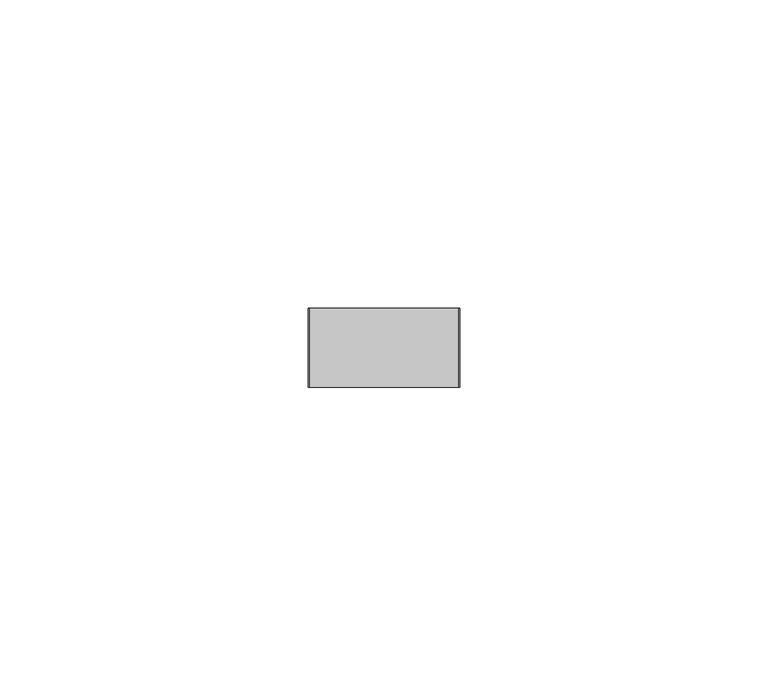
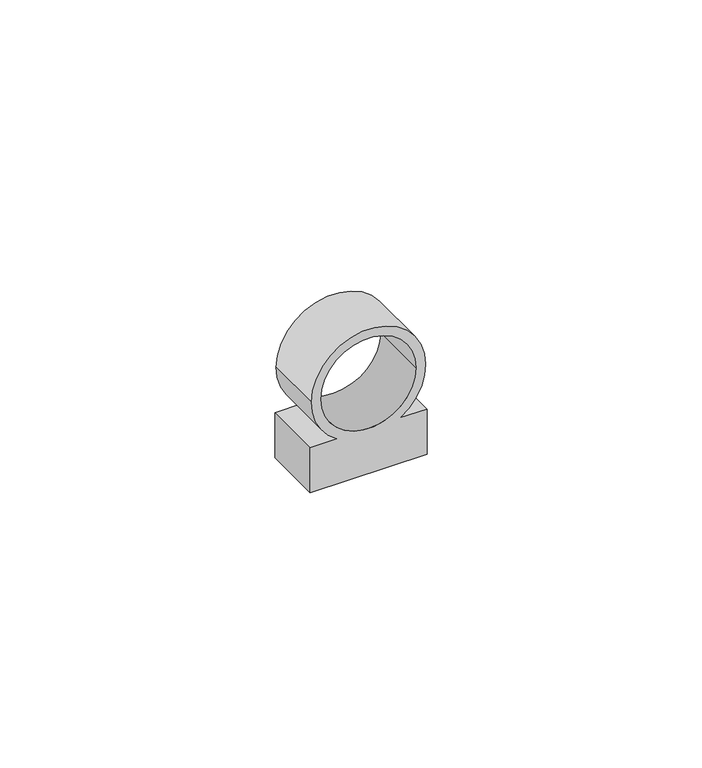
"""IFC4 building model written with IfcOpenShell, lengths in millimetres: cable carrier fitting geometry."""

from ifc_helpers import new_model, si_unit, point, frame, frame_2d, origin, place, context, project, spatial, polyline, circle_curve, trimmed, segment, composite_curve, outline, extrude, source, transform, mapped, element, save


def cable_carrier_fitting_1310a5ac(model_context):
    return source(origin(), model_context, "Body", "SweptSolid", [
        extrude(outline(composite_curve([segment(trimmed(circle_curve(frame_2d((20.0, 0.0)), 12.0), [point((20.0, 12.0))], [point((20.0, -12.0))], False, "CARTESIAN"), True, "CONTINUOUS"), segment(trimmed(circle_curve(frame_2d((20.0, 0.0)), 12.0), [point((20.0, -12.0))], [point((10.0, -6.6332496))], False, "CARTESIAN"), True, "CONTINUOUS"), segment(polyline([(10.0, -6.6332496), (10.0, -12.25), (0.0, -12.25), (0.0, 12.25), (10.0, 12.25), (10.0, 6.6332496)]), True, "CONTINUOUS"), segment(trimmed(circle_curve(frame_2d((20.0, 0.0)), 12.0), [point((10.0, 6.6332496))], [point((20.0, 12.0))], False, "CARTESIAN"), True, "CONTINUOUS")], self_intersect=False), holes=[composite_curve([segment(trimmed(circle_curve(frame_2d((20.0, 0.0)), 10.0), [point((20.0, -10.0))], [point((20.0, 10.0))], True, "CARTESIAN"), True, "CONTINUOUS"), segment(trimmed(circle_curve(frame_2d((20.0, 0.0)), 10.0), [point((20.0, 10.0))], [point((20.0, -10.0))], True, "CARTESIAN"), True, "CONTINUOUS")], self_intersect=False)]), frame((0.0, -6.4, 0.0), z_axis=(0.0, 1.0, 0.0), x_axis=(0.0, 0.0, 1.0)), (0.0, 0.0, 1.0), 12.8),
    ])


if __name__ == "__main__":
    model = new_model("IFC4")
    model_context = context("Model", 3, world=origin())
    ifc_project = project(units=[si_unit("LENGTHUNIT", "METRE", prefix="MILLI")], contexts=[model_context])
    site = spatial("IfcSite", under=ifc_project)
    building = spatial("IfcBuilding", under=site)
    placement = place(None, origin())
    cable_carrier_fitting_shape = cable_carrier_fitting_1310a5ac(model_context)
    element("IfcCableCarrierFitting", 1, at=placement, inside=building, context=model_context, shape_type="MappedRepresentation", body=[
        mapped(cable_carrier_fitting_shape, transform((0.0, 0.0, 0.0), x_axis=(1.0, 0.0, 0.0), y_axis=(0.0, 1.0, 0.0), z_axis=(0.0, 0.0, 1.0))),
    ])
    save(model, "model.ifc")
